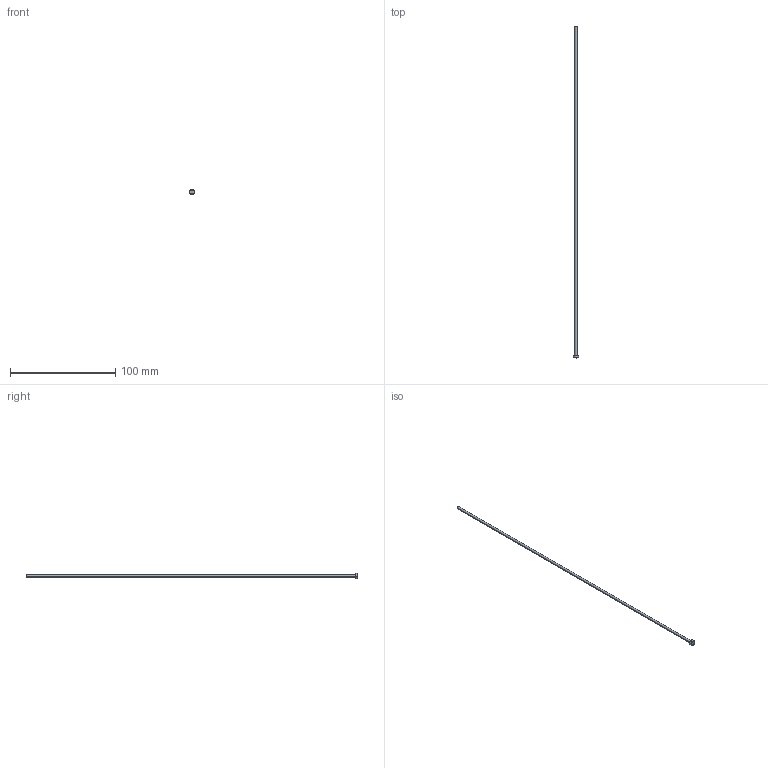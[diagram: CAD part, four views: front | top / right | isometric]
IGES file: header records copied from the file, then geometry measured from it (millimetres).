
Start section: SolidWorks IGES file using analytic representation for surfaces
Global section: file name: C:\Users\User\Downloads\Matripeça 31-08 tar\PB - PINO EXTRATOR TIPO _B_ (CATÁLOGO)\PB02,5\PB02,5315.IGS; native system: SolidWorks 2024; preprocessor: SolidWorks 2024; author: User; date: 260901.141210; units: millimetre
Bounding box: 5 x 315 x 5 mm (x, y, z)
Surface area: 2531.9 mm2 (no closed solid volume)
Topology: 0 solids, 0 shells, 409 faces, 3079 edges, 3079 vertices
Faces by surface type: bspline 395, revolution 14
